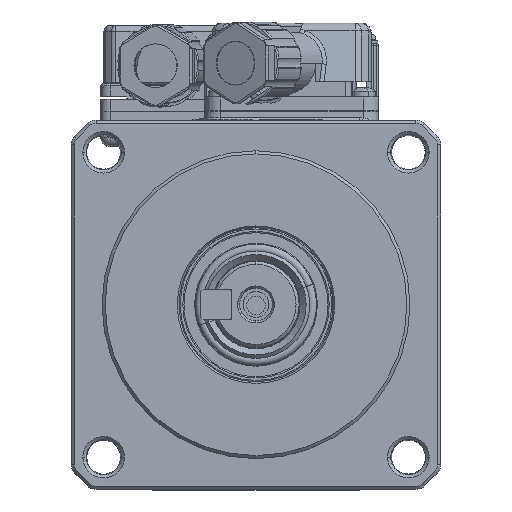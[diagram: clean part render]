
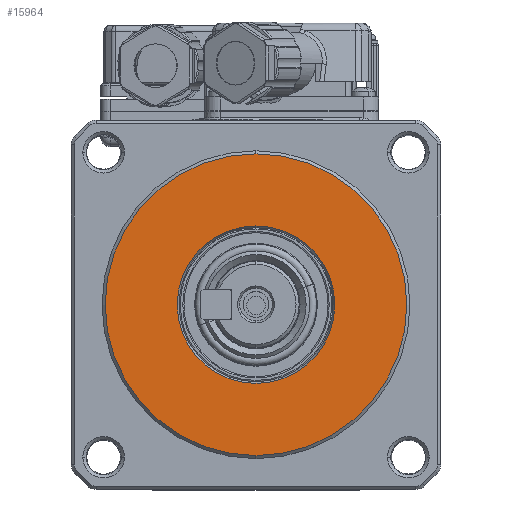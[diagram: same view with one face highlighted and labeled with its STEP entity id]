
A CAD part, top view. The second image highlights one B-rep face of the part: STEP entity #15964.
In plain terms, the highlighted planar face has unit normal (0, 0, 1).
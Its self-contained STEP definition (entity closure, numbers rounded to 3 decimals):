
#2548 = DIRECTION ( 'NONE',  ( 0., 0., 1. ) ) ;
#3691 = CIRCLE ( 'NONE', #17953, 24.5 ) ;
#4460 = CARTESIAN_POINT ( 'NONE',  ( 0., -24.5, 0. ) ) ;
#5151 = CARTESIAN_POINT ( 'NONE',  ( 0., -12.789, 0. ) ) ;
#5720 = DIRECTION ( 'NONE',  ( 0., -1., 0. ) ) ;
#6934 = CARTESIAN_POINT ( 'NONE',  ( 0., 0., 0. ) ) ;
#11970 = CARTESIAN_POINT ( 'NONE',  ( 0., 24.5, 0. ) ) ;
#12138 = DIRECTION ( 'NONE',  ( 0., 0., 1. ) ) ;
#14369 = EDGE_CURVE ( 'NONE', #21298, #45795, #53544, .T. ) ;
#15515 = AXIS2_PLACEMENT_3D ( 'NONE', #52068, #2548, #58222 ) ;
#15843 = AXIS2_PLACEMENT_3D ( 'NONE', #16610, #53969, #78601 ) ;
#15964 = ADVANCED_FACE ( 'NONE', ( #44490, #57025 ), #27368, .F. ) ;
#16610 = CARTESIAN_POINT ( 'NONE',  ( 0., 0., 0. ) ) ;
#17953 = AXIS2_PLACEMENT_3D ( 'NONE', #6934, #79510, #5720 ) ;
#18691 = VERTEX_POINT ( 'NONE', #11970 ) ;
#21298 = VERTEX_POINT ( 'NONE', #5151 ) ;
#27368 = PLANE ( 'NONE',  #40974 ) ;
#27906 = EDGE_CURVE ( 'NONE', #29505, #18691, #3691, .T. ) ;
#29505 = VERTEX_POINT ( 'NONE', #4460 ) ;
#29990 = ORIENTED_EDGE ( 'NONE', *, *, #65911, .T. ) ;
#31643 = DIRECTION ( 'NONE',  ( 0., -1., 0. ) ) ;
#33728 = ORIENTED_EDGE ( 'NONE', *, *, #27906, .T. ) ;
#39994 = ORIENTED_EDGE ( 'NONE', *, *, #46519, .F. ) ;
#40974 = AXIS2_PLACEMENT_3D ( 'NONE', #60215, #47648, #77590 ) ;
#44490 = FACE_BOUND ( 'NONE', #56512, .T. ) ;
#45795 = VERTEX_POINT ( 'NONE', #68118 ) ;
#46519 = EDGE_CURVE ( 'NONE', #45795, #21298, #65096, .T. ) ;
#47648 = DIRECTION ( 'NONE',  ( 0., 0., -1. ) ) ;
#50568 = CIRCLE ( 'NONE', #15515, 24.5 ) ;
#52068 = CARTESIAN_POINT ( 'NONE',  ( 0., 0., 0. ) ) ;
#53544 = CIRCLE ( 'NONE', #56178, 12.789 ) ;
#53969 = DIRECTION ( 'NONE',  ( 0., 0., 1. ) ) ;
#55183 = CARTESIAN_POINT ( 'NONE',  ( 0., 0., 0. ) ) ;
#56178 = AXIS2_PLACEMENT_3D ( 'NONE', #55183, #12138, #31643 ) ;
#56512 = EDGE_LOOP ( 'NONE', ( #71790, #39994 ) ) ;
#57025 = FACE_OUTER_BOUND ( 'NONE', #57088, .T. ) ;
#57088 = EDGE_LOOP ( 'NONE', ( #29990, #33728 ) ) ;
#58222 = DIRECTION ( 'NONE',  ( 0., -1., 0. ) ) ;
#60215 = CARTESIAN_POINT ( 'NONE',  ( 0., 12.2, 0. ) ) ;
#65096 = CIRCLE ( 'NONE', #15843, 12.789 ) ;
#65911 = EDGE_CURVE ( 'NONE', #18691, #29505, #50568, .T. ) ;
#68118 = CARTESIAN_POINT ( 'NONE',  ( 0., 12.789, 0. ) ) ;
#71790 = ORIENTED_EDGE ( 'NONE', *, *, #14369, .F. ) ;
#77590 = DIRECTION ( 'NONE',  ( -1., 0., 0. ) ) ;
#78601 = DIRECTION ( 'NONE',  ( 0., -1., 0. ) ) ;
#79510 = DIRECTION ( 'NONE',  ( 0., 0., 1. ) ) ;
